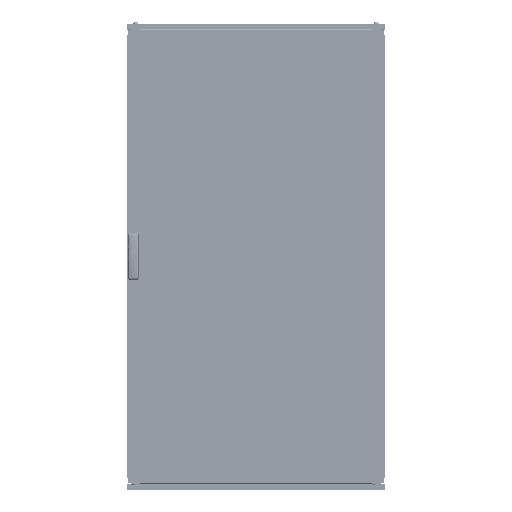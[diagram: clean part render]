
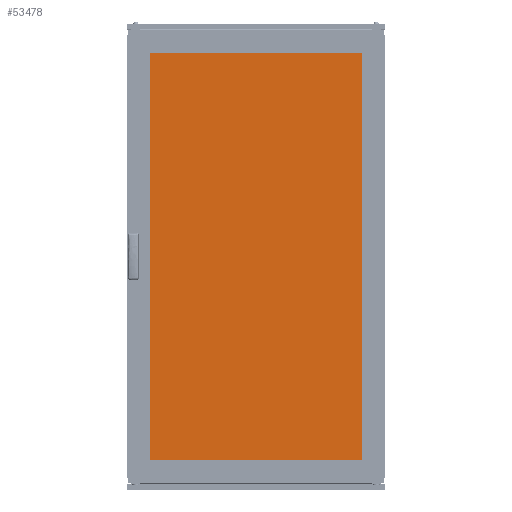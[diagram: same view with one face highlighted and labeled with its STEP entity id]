
A CAD part, top view. The second image highlights one B-rep face of the part: STEP entity #53478.
In plain terms, the highlighted planar face has unit normal (0, 0, 1).
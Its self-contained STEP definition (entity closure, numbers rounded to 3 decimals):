
#3525 = EDGE_LOOP ( 'NONE', ( #76242, #54557, #101298, #105586 ) ) ;
#4337 = CARTESIAN_POINT ( 'NONE',  ( -430., -810., 5. ) ) ;
#5060 = LINE ( 'NONE', #203699, #214092 ) ;
#32539 = CARTESIAN_POINT ( 'NONE',  ( 0., 0., 5. ) ) ;
#35729 = LINE ( 'NONE', #165715, #85039 ) ;
#37640 = EDGE_CURVE ( 'NONE', #123839, #220621, #71990, .T. ) ;
#38850 = DIRECTION ( 'NONE',  ( 0., 1., 0. ) ) ;
#51333 = LINE ( 'NONE', #88601, #102392 ) ;
#53478 = ADVANCED_FACE ( 'NONE', ( #90231 ), #197386, .F. ) ;
#54557 = ORIENTED_EDGE ( 'NONE', *, *, #37640, .T. ) ;
#69629 = EDGE_CURVE ( 'NONE', #167240, #123839, #5060, .T. ) ;
#69783 = DIRECTION ( 'NONE',  ( -1., 0., 0. ) ) ;
#71990 = LINE ( 'NONE', #183990, #169221 ) ;
#76242 = ORIENTED_EDGE ( 'NONE', *, *, #69629, .T. ) ;
#83904 = DIRECTION ( 'NONE',  ( 1., 0., 0. ) ) ;
#85039 = VECTOR ( 'NONE', #187336, 1000. ) ;
#85677 = DIRECTION ( 'NONE',  ( -1., 0., 0. ) ) ;
#88601 = CARTESIAN_POINT ( 'NONE',  ( -430., -810., 5. ) ) ;
#90231 = FACE_OUTER_BOUND ( 'NONE', #3525, .T. ) ;
#101298 = ORIENTED_EDGE ( 'NONE', *, *, #226955, .T. ) ;
#101585 = CARTESIAN_POINT ( 'NONE',  ( -430., 810., 5. ) ) ;
#102392 = VECTOR ( 'NONE', #83904, 1000. ) ;
#104757 = CARTESIAN_POINT ( 'NONE',  ( 430., 810., 5. ) ) ;
#105586 = ORIENTED_EDGE ( 'NONE', *, *, #118012, .T. ) ;
#118012 = EDGE_CURVE ( 'NONE', #162475, #167240, #51333, .T. ) ;
#123839 = VERTEX_POINT ( 'NONE', #104757 ) ;
#152447 = CARTESIAN_POINT ( 'NONE',  ( 430., -810., 5. ) ) ;
#162475 = VERTEX_POINT ( 'NONE', #4337 ) ;
#162508 = DIRECTION ( 'NONE',  ( 0., 0., -1. ) ) ;
#164822 = AXIS2_PLACEMENT_3D ( 'NONE', #32539, #162508, #69783 ) ;
#165715 = CARTESIAN_POINT ( 'NONE',  ( -430., -810., 5. ) ) ;
#167240 = VERTEX_POINT ( 'NONE', #152447 ) ;
#169221 = VECTOR ( 'NONE', #85677, 1000. ) ;
#183990 = CARTESIAN_POINT ( 'NONE',  ( -430., 810., 5. ) ) ;
#187336 = DIRECTION ( 'NONE',  ( 0., -1., 0. ) ) ;
#197386 = PLANE ( 'NONE',  #164822 ) ;
#203699 = CARTESIAN_POINT ( 'NONE',  ( 430., -810., 5. ) ) ;
#214092 = VECTOR ( 'NONE', #38850, 1000. ) ;
#220621 = VERTEX_POINT ( 'NONE', #101585 ) ;
#226955 = EDGE_CURVE ( 'NONE', #220621, #162475, #35729, .T. ) ;
